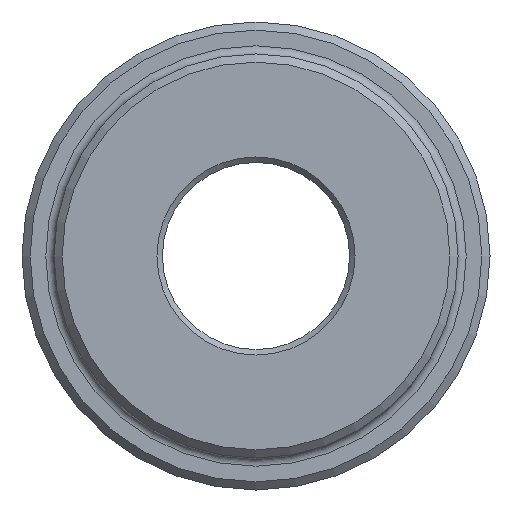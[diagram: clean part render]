
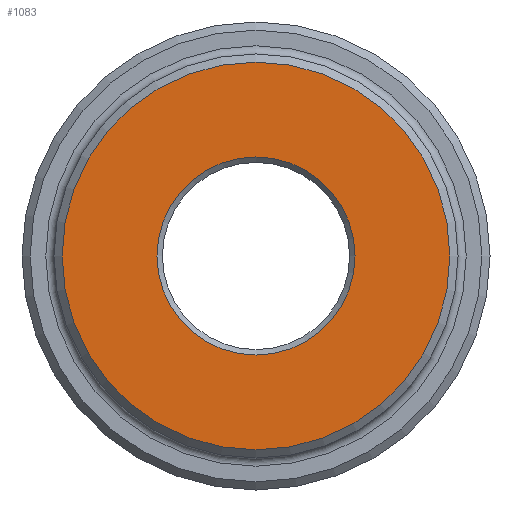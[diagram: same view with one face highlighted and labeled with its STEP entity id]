
A CAD part, left-side view. The second image highlights one B-rep face of the part: STEP entity #1083.
In plain terms, the highlighted planar face has unit normal (-1, 0, 0).
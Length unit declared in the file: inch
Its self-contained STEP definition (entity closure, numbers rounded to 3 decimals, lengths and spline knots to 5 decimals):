
#18 = ORIENTED_EDGE ( 'NONE', *, *, #452, .T. ) ;
#28 = ORIENTED_EDGE ( 'NONE', *, *, #612, .T. ) ;
#171 = DIRECTION ( 'NONE',  ( -1., 0., 0. ) ) ;
#172 = DIRECTION ( 'NONE',  ( 0., 0., -1. ) ) ;
#251 = DIRECTION ( 'NONE',  ( 0., 0., -1. ) ) ;
#429 = DIRECTION ( 'NONE',  ( 1., 0., 0. ) ) ;
#452 = EDGE_CURVE ( 'NONE', #1354, #1354, #875, .T. ) ;
#571 = DIRECTION ( 'NONE',  ( 0., 0., -1. ) ) ;
#612 = EDGE_CURVE ( 'NONE', #1561, #1561, #1018, .T. ) ;
#641 = FACE_BOUND ( 'NONE', #1636, .T. ) ;
#645 = CARTESIAN_POINT ( 'NONE',  ( 0., 0., 0. ) ) ;
#818 = AXIS2_PLACEMENT_3D ( 'NONE', #1455, #429, #251 ) ;
#827 = CARTESIAN_POINT ( 'NONE',  ( 0., 0., -0.72775 ) ) ;
#844 = AXIS2_PLACEMENT_3D ( 'NONE', #645, #1115, #172 ) ;
#875 = CIRCLE ( 'NONE', #818, 0.72775 ) ;
#963 = PLANE ( 'NONE',  #844 ) ;
#1018 = CIRCLE ( 'NONE', #1582, 1.425 ) ;
#1083 = ADVANCED_FACE ( 'NONE', ( #641, #1150 ), #963, .F. ) ;
#1115 = DIRECTION ( 'NONE',  ( 1., 0., 0. ) ) ;
#1150 = FACE_OUTER_BOUND ( 'NONE', #1166, .T. ) ;
#1166 = EDGE_LOOP ( 'NONE', ( #28 ) ) ;
#1354 = VERTEX_POINT ( 'NONE', #827 ) ;
#1375 = CARTESIAN_POINT ( 'NONE',  ( 0., 0., 0. ) ) ;
#1455 = CARTESIAN_POINT ( 'NONE',  ( 0., 0., 0. ) ) ;
#1561 = VERTEX_POINT ( 'NONE', #1777 ) ;
#1582 = AXIS2_PLACEMENT_3D ( 'NONE', #1375, #171, #571 ) ;
#1636 = EDGE_LOOP ( 'NONE', ( #18 ) ) ;
#1777 = CARTESIAN_POINT ( 'NONE',  ( 0., 0., -1.425 ) ) ;
